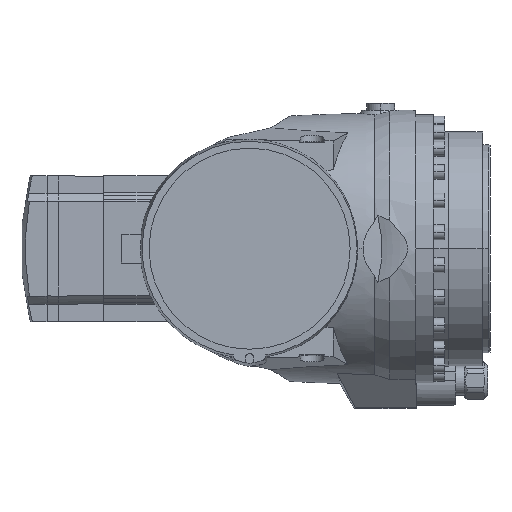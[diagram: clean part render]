
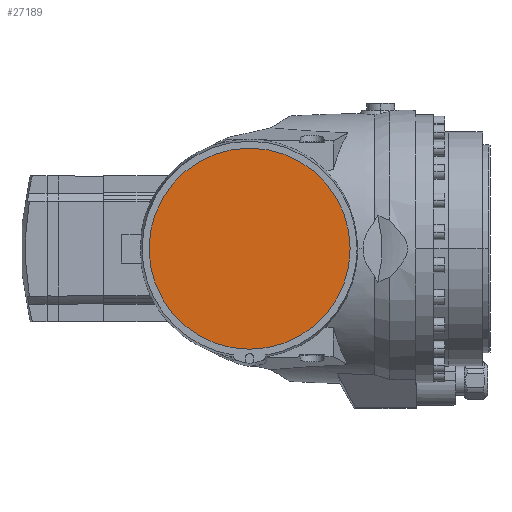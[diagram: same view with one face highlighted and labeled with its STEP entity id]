
A CAD part, front view. The second image highlights one B-rep face of the part: STEP entity #27189.
In plain terms, the highlighted planar face has unit normal (0, -1, 0).
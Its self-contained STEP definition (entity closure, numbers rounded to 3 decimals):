
#25 = DIRECTION ( 'NONE',  ( -1., 0., 0. ) ) ;
#4364 = VERTEX_POINT ( 'NONE', #31595 ) ;
#5066 = AXIS2_PLACEMENT_3D ( 'NONE', #6924, #31308, #29065 ) ;
#5414 = CARTESIAN_POINT ( 'NONE',  ( 2213.5, -95., 1940. ) ) ;
#6518 = AXIS2_PLACEMENT_3D ( 'NONE', #30063, #29743, #10481 ) ;
#6924 = CARTESIAN_POINT ( 'NONE',  ( 2282.5, -95., 1940. ) ) ;
#8936 = FACE_OUTER_BOUND ( 'NONE', #30070, .T. ) ;
#10481 = DIRECTION ( 'NONE',  ( -1., 0., 0. ) ) ;
#11767 = EDGE_CURVE ( 'NONE', #4364, #23884, #15770, .T. ) ;
#13856 = EDGE_CURVE ( 'NONE', #23884, #4364, #15877, .T. ) ;
#15770 = CIRCLE ( 'NONE', #5066, 69. ) ;
#15877 = CIRCLE ( 'NONE', #30222, 69. ) ;
#16201 = ORIENTED_EDGE ( 'NONE', *, *, #11767, .F. ) ;
#18708 = PLANE ( 'NONE',  #6518 ) ;
#18854 = ORIENTED_EDGE ( 'NONE', *, *, #13856, .F. ) ;
#23884 = VERTEX_POINT ( 'NONE', #5414 ) ;
#24030 = DIRECTION ( 'NONE',  ( 0., 1., 0. ) ) ;
#24526 = CARTESIAN_POINT ( 'NONE',  ( 2282.5, -95., 1940. ) ) ;
#27189 = ADVANCED_FACE ( 'NONE', ( #8936 ), #18708, .F. ) ;
#29065 = DIRECTION ( 'NONE',  ( -1., 0., 0. ) ) ;
#29743 = DIRECTION ( 'NONE',  ( 0., 1., 0. ) ) ;
#30063 = CARTESIAN_POINT ( 'NONE',  ( 2213.5, -95., 1940. ) ) ;
#30070 = EDGE_LOOP ( 'NONE', ( #18854, #16201 ) ) ;
#30222 = AXIS2_PLACEMENT_3D ( 'NONE', #24526, #24030, #25 ) ;
#31308 = DIRECTION ( 'NONE',  ( 0., 1., 0. ) ) ;
#31595 = CARTESIAN_POINT ( 'NONE',  ( 2351.5, -95., 1940. ) ) ;
